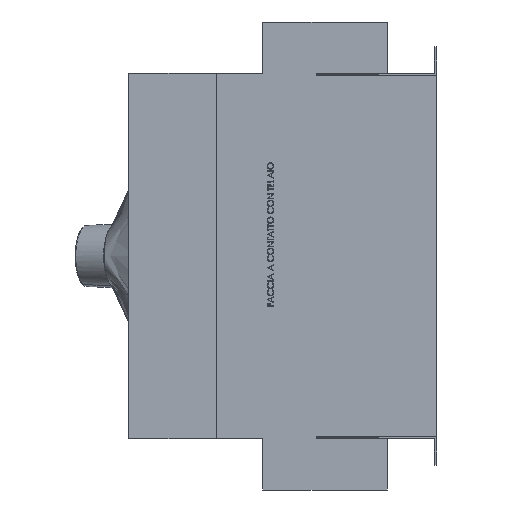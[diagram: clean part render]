
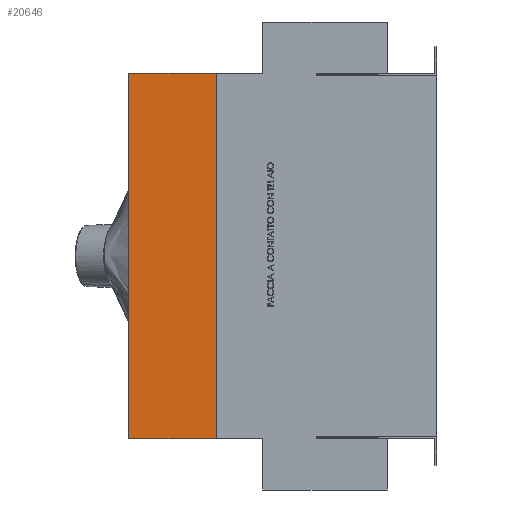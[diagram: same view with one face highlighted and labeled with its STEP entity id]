
A CAD part, left-side view. The second image highlights one B-rep face of the part: STEP entity #20646.
In plain terms, the highlighted planar face has unit normal (-1, 0, 0).
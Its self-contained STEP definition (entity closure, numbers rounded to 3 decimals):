
#2204 = VERTEX_POINT ( 'NONE', #28016 ) ;
#5826 = EDGE_CURVE ( 'NONE', #62632, #31617, #58554, .T. ) ;
#6716 = DIRECTION ( 'NONE',  ( 0., -1., 0. ) ) ;
#7530 = CARTESIAN_POINT ( 'NONE',  ( -120.515, 316.605, 1184.067 ) ) ;
#7540 = LINE ( 'NONE', #40977, #22515 ) ;
#8169 = DIRECTION ( 'NONE',  ( 0., 1., 0. ) ) ;
#8889 = CARTESIAN_POINT ( 'NONE',  ( -120.515, 176.605, 1184.067 ) ) ;
#14566 = PLANE ( 'NONE',  #47229 ) ;
#14617 = FACE_OUTER_BOUND ( 'NONE', #64354, .T. ) ;
#19393 = EDGE_CURVE ( 'NONE', #62632, #2204, #7540, .T. ) ;
#19588 = DIRECTION ( 'NONE',  ( 1., 0., 0. ) ) ;
#20646 = ADVANCED_FACE ( 'NONE', ( #14617 ), #14566, .F. ) ;
#20836 = VECTOR ( 'NONE', #22916, 1000. ) ;
#21802 = VERTEX_POINT ( 'NONE', #24841 ) ;
#22515 = VECTOR ( 'NONE', #6716, 1000. ) ;
#22916 = DIRECTION ( 'NONE',  ( 0., 0., -1. ) ) ;
#24841 = CARTESIAN_POINT ( 'NONE',  ( -120.515, 176.605, -293. ) ) ;
#28016 = CARTESIAN_POINT ( 'NONE',  ( -120.515, 176.605, 293. ) ) ;
#29732 = CARTESIAN_POINT ( 'NONE',  ( -120.515, 316.605, 293. ) ) ;
#31615 = CARTESIAN_POINT ( 'NONE',  ( -120.515, 316.605, -293. ) ) ;
#31617 = VERTEX_POINT ( 'NONE', #31615 ) ;
#33887 = EDGE_CURVE ( 'NONE', #2204, #21802, #48462, .T. ) ;
#35373 = VECTOR ( 'NONE', #49100, 1000. ) ;
#38067 = CARTESIAN_POINT ( 'NONE',  ( -120.515, 316.605, -293. ) ) ;
#38865 = CARTESIAN_POINT ( 'NONE',  ( -120.515, 316.605, 1184.067 ) ) ;
#40977 = CARTESIAN_POINT ( 'NONE',  ( -120.515, 316.605, 293. ) ) ;
#42081 = ORIENTED_EDGE ( 'NONE', *, *, #19393, .F. ) ;
#47229 = AXIS2_PLACEMENT_3D ( 'NONE', #38865, #19588, #54116 ) ;
#48462 = LINE ( 'NONE', #8889, #35373 ) ;
#49100 = DIRECTION ( 'NONE',  ( 0., 0., -1. ) ) ;
#49292 = ORIENTED_EDGE ( 'NONE', *, *, #5826, .T. ) ;
#52037 = ORIENTED_EDGE ( 'NONE', *, *, #58533, .F. ) ;
#54116 = DIRECTION ( 'NONE',  ( 0., 0., -1. ) ) ;
#57774 = LINE ( 'NONE', #38067, #59290 ) ;
#58533 = EDGE_CURVE ( 'NONE', #21802, #31617, #57774, .T. ) ;
#58554 = LINE ( 'NONE', #7530, #20836 ) ;
#59290 = VECTOR ( 'NONE', #8169, 1000. ) ;
#59651 = ORIENTED_EDGE ( 'NONE', *, *, #33887, .F. ) ;
#62632 = VERTEX_POINT ( 'NONE', #29732 ) ;
#64354 = EDGE_LOOP ( 'NONE', ( #42081, #49292, #52037, #59651 ) ) ;
